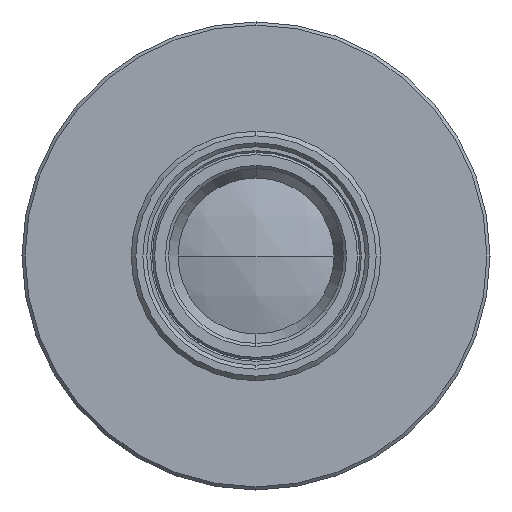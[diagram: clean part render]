
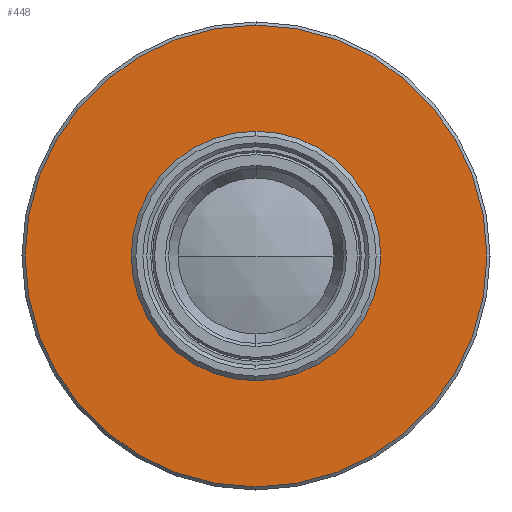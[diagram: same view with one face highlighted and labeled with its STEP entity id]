
A CAD part, left-side view. The second image highlights one B-rep face of the part: STEP entity #448.
In plain terms, the highlighted planar face has unit normal (-1, 0, 0).
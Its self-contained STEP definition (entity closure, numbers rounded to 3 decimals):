
#261 = EDGE_CURVE ( 'NONE', #667, #602, #1079, .T. ) ;
#262 = EDGE_CURVE ( 'NONE', #619, #627, #1080, .T. ) ;
#315 = EDGE_CURVE ( 'NONE', #627, #619, #1157, .T. ) ;
#318 = EDGE_CURVE ( 'NONE', #602, #667, #1162, .T. ) ;
#375 = AXIS2_PLACEMENT_3D ( 'NONE', #943, #944, #945 ) ;
#376 = AXIS2_PLACEMENT_3D ( 'NONE', #946, #947, #948 ) ;
#405 = AXIS2_PLACEMENT_3D ( 'NONE', #1363, #1364, #1365 ) ;
#406 = AXIS2_PLACEMENT_3D ( 'NONE', #1370, #1371, #1372 ) ;
#413 = AXIS2_PLACEMENT_3D ( 'NONE', #1384, #1389, #1390 ) ;
#448 = ADVANCED_FACE ( 'NONE', ( #1172, #1171 ), #1387, .F. ) ;
#602 = VERTEX_POINT ( 'NONE', #1673 ) ;
#619 = VERTEX_POINT ( 'NONE', #1690 ) ;
#627 = VERTEX_POINT ( 'NONE', #1698 ) ;
#667 = VERTEX_POINT ( 'NONE', #1738 ) ;
#721 = EDGE_LOOP ( 'NONE', ( #1814, #1816 ) ) ;
#727 = EDGE_LOOP ( 'NONE', ( #1815, #1817 ) ) ;
#943 = CARTESIAN_POINT ( 'NONE',  ( -19.526, 0., 0. ) ) ;
#944 = DIRECTION ( 'NONE',  ( -1., 0., 0. ) ) ;
#945 = DIRECTION ( 'NONE',  ( 0., 0., 1. ) ) ;
#946 = CARTESIAN_POINT ( 'NONE',  ( -19.526, 0., 0. ) ) ;
#947 = DIRECTION ( 'NONE',  ( -1., 0., 0. ) ) ;
#948 = DIRECTION ( 'NONE',  ( 0., 0., 1. ) ) ;
#1079 = CIRCLE ( 'NONE', #375, 14.8 ) ;
#1080 = CIRCLE ( 'NONE', #376, 8. ) ;
#1157 = CIRCLE ( 'NONE', #405, 8. ) ;
#1162 = CIRCLE ( 'NONE', #406, 14.8 ) ;
#1171 = FACE_OUTER_BOUND ( 'NONE', #727, .T. ) ;
#1172 = FACE_BOUND ( 'NONE', #721, .T. ) ;
#1363 = CARTESIAN_POINT ( 'NONE',  ( -19.526, 0., 0. ) ) ;
#1364 = DIRECTION ( 'NONE',  ( -1., 0., 0. ) ) ;
#1365 = DIRECTION ( 'NONE',  ( 0., 0., 1. ) ) ;
#1370 = CARTESIAN_POINT ( 'NONE',  ( -19.526, 0., 0. ) ) ;
#1371 = DIRECTION ( 'NONE',  ( -1., 0., 0. ) ) ;
#1372 = DIRECTION ( 'NONE',  ( 0., 0., 1. ) ) ;
#1384 = CARTESIAN_POINT ( 'NONE',  ( -19.526, 8., 0. ) ) ;
#1387 = PLANE ( 'NONE',  #413 ) ;
#1389 = DIRECTION ( 'NONE',  ( 1., 0., 0. ) ) ;
#1390 = DIRECTION ( 'NONE',  ( 0., 0., -1. ) ) ;
#1673 = CARTESIAN_POINT ( 'NONE',  ( -19.526, 0., 14.8 ) ) ;
#1690 = CARTESIAN_POINT ( 'NONE',  ( -19.526, 0., -8. ) ) ;
#1698 = CARTESIAN_POINT ( 'NONE',  ( -19.526, 0., 8. ) ) ;
#1738 = CARTESIAN_POINT ( 'NONE',  ( -19.526, 0., -14.8 ) ) ;
#1814 = ORIENTED_EDGE ( 'NONE', *, *, #315, .F. ) ;
#1815 = ORIENTED_EDGE ( 'NONE', *, *, #261, .T. ) ;
#1816 = ORIENTED_EDGE ( 'NONE', *, *, #262, .F. ) ;
#1817 = ORIENTED_EDGE ( 'NONE', *, *, #318, .T. ) ;
